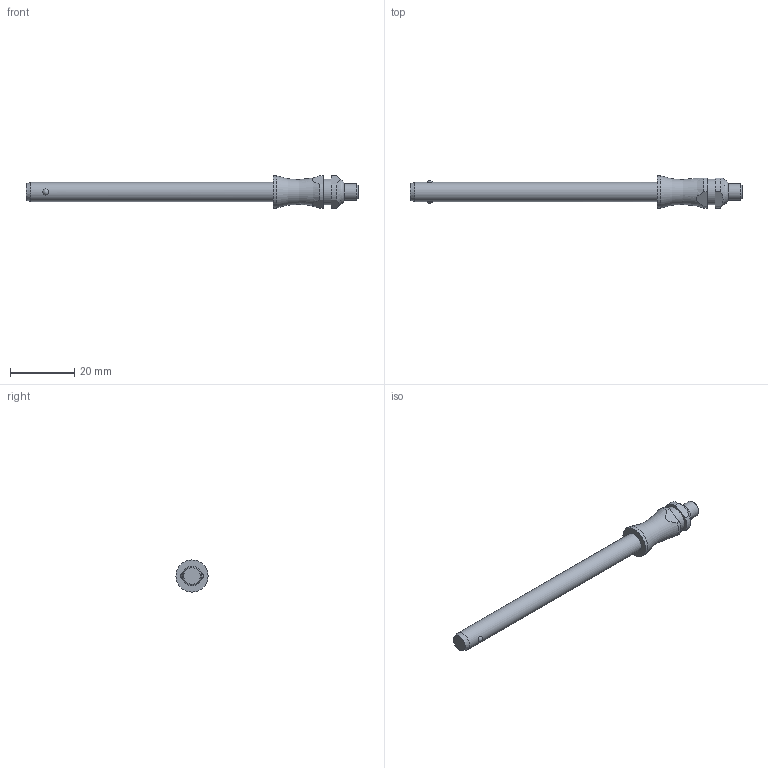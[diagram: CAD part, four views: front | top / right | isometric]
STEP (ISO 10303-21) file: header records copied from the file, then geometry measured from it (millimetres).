
FILE_DESCRIPTION( ( 'STEP AP203' ), '1' );
FILE_NAME( 'C:/Temp/Ganter_Step_05_03_2020/data/3_1/gn113_3/Stainless Steel-Ball lock pin GN 113.3-6-70 (deactivated).stp', '2020-03-12T08:18:20', ( 'License CC BY-ND 4.0' ), ( 'CADENAS' ), ' ', 'PARTsolutions', ' ' );
FILE_SCHEMA( ( 'CONFIG_CONTROL_DESIGN' ) );
Length unit declared in the file: millimetre
Products named in the file (1): _Stainless Steel-Ball lock pin GN 113.3-6-70 (deactivated)
Bounding box: 103.3 x 10 x 10 mm (x, y, z)
Volume: 3513.9 mm3; surface area: 2271.3 mm2
Topology: 1 solids, 1 shells, 29 faces, 61 edges, 40 vertices
Faces by surface type: plane 12, cylinder 10, cone 3, torus 2, sphere 2
Full cylindrical faces by diameter (mm): 5 x1, 6 x1, 7.9 x1, 10 x1
Entity records: 918 total; most frequent: CARTESIAN_POINT 288, DIRECTION 126, ORIENTED_EDGE 100, AXIS2_PLACEMENT_3D 54, EDGE_CURVE 50, EDGE_LOOP 44, VERTEX_POINT 38, FACE_OUTER_BOUND 35
